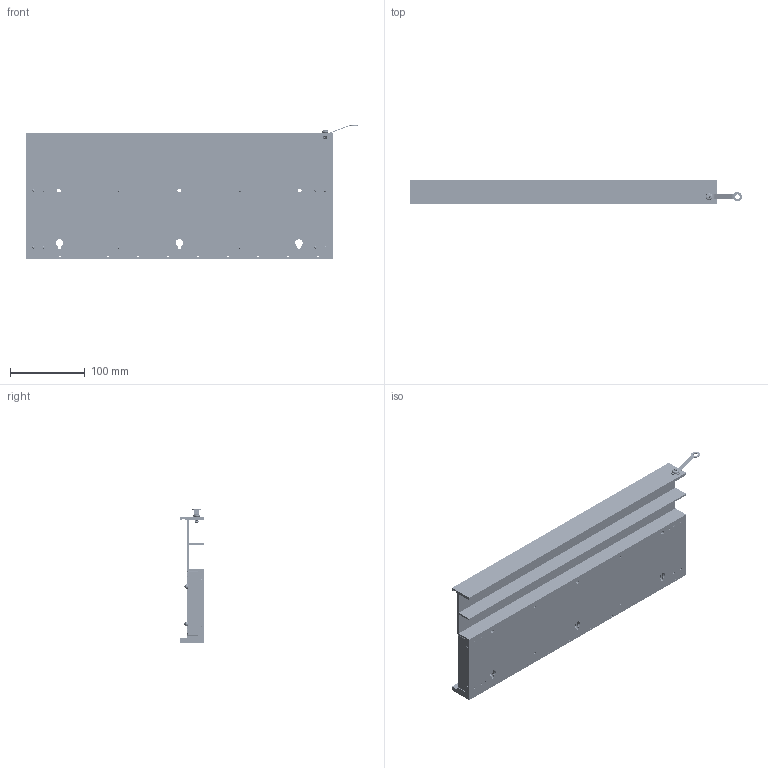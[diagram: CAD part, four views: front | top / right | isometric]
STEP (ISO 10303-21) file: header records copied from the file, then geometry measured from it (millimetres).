
FILE_DESCRIPTION((''),'2;1');
FILE_NAME('POWER_RAIL_ASSY_ASM','2009-04-28T',('administrator'),(''),'PRO/ENGINEER BY PARAMETRIC TECHNOLOGY CORPORATION, 2005110','PRO/ENGINEER BY PARAMETRIC TECHNOLOGY CORPORATION, 2005110','');
FILE_SCHEMA(('CONFIG_CONTROL_DESIGN'));
Length unit declared in the file: millimetre
Products named in the file (10): POWER_RAIL; POWER_RAIL_PCB; POWER_RAIL_CONNECTOR; DOWEL_PIN; POWER_RAIL_SIDE_CAP; A; POWER_RAIL_M3_BOLT; POWER_RAIL_M5_BOLT; YUPO-22; POWER_RAIL_ASSY_ASM
Assembly tree (32 placements, depth 2):
  POWER_RAIL_ASSY_ASM
    POWER_RAIL
    POWER_RAIL_PCB
    POWER_RAIL_CONNECTOR  x10
    DOWEL_PIN  x2
    POWER_RAIL_SIDE_CAP  x2
    A
    POWER_RAIL_M3_BOLT  x13
    POWER_RAIL_M5_BOLT
    YUPO-22
Bounding box: 444 x 32.66 x 178.5 mm (x, y, z)
Volume: 518727.2 mm3; surface area: 419694.4 mm2
Topology: 32 solids, 32 shells, 21779 faces, 60826 edges, 39517 vertices
Faces by surface type: plane 17767, cylinder 3576, bspline 176, torus 96, cone 82, sphere 42, revolution 40
Entity records: 87212 total; most frequent: CARTESIAN_POINT 20774, ORIENTED_EDGE 14174, DIRECTION 13134, EDGE_CURVE 7087, VECTOR 5894, LINE 5894, VERTEX_POINT 4613, AXIS2_PLACEMENT_3D 3618
